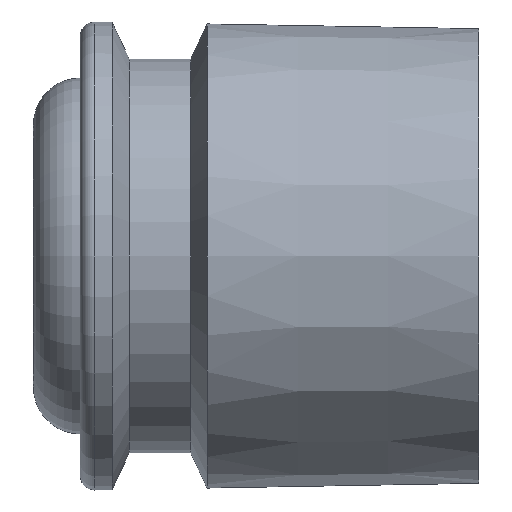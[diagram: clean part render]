
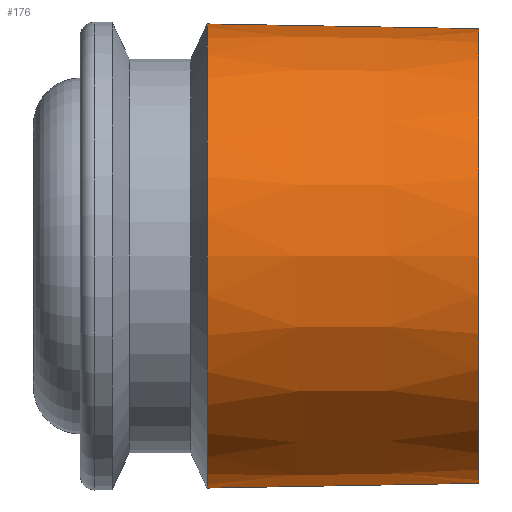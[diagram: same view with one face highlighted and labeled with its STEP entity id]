
A CAD part, left-side view. The second image highlights one B-rep face of the part: STEP entity #176.
In plain terms, the highlighted conical face has half-angle 1 degrees and reference radius 4.953 mm.
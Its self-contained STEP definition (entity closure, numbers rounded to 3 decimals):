
#5 = VECTOR ( 'NONE', #541, 1000. ) ;
#25 = AXIS2_PLACEMENT_3D ( 'NONE', #109, #236, #386 ) ;
#40 = AXIS2_PLACEMENT_3D ( 'NONE', #283, #559, #668 ) ;
#41 = CARTESIAN_POINT ( 'NONE',  ( 0., 0., 4.852 ) ) ;
#42 = ORIENTED_EDGE ( 'NONE', *, *, #153, .T. ) ;
#45 = LINE ( 'NONE', #371, #550 ) ;
#46 = VERTEX_POINT ( 'NONE', #61 ) ;
#54 = FACE_OUTER_BOUND ( 'NONE', #469, .T. ) ;
#57 = DIRECTION ( 'NONE',  ( 0., 1., 0. ) ) ;
#61 = CARTESIAN_POINT ( 'NONE',  ( 0., 0., -4.852 ) ) ;
#109 = CARTESIAN_POINT ( 'NONE',  ( 0., 5.796, 0. ) ) ;
#125 = CARTESIAN_POINT ( 'NONE',  ( 0., 5.796, -4.953 ) ) ;
#153 = EDGE_CURVE ( 'NONE', #643, #193, #627, .T. ) ;
#176 = ADVANCED_FACE ( 'NONE', ( #54 ), #254, .T. ) ;
#193 = VERTEX_POINT ( 'NONE', #125 ) ;
#236 = DIRECTION ( 'NONE',  ( 0., -1., 0. ) ) ;
#254 = CONICAL_SURFACE ( 'NONE', #330, 4.953, 0.017 ) ;
#267 = ORIENTED_EDGE ( 'NONE', *, *, #356, .F. ) ;
#283 = CARTESIAN_POINT ( 'NONE',  ( 0., 0., 0. ) ) ;
#325 = LINE ( 'NONE', #645, #5 ) ;
#330 = AXIS2_PLACEMENT_3D ( 'NONE', #554, #57, #490 ) ;
#347 = ORIENTED_EDGE ( 'NONE', *, *, #510, .F. ) ;
#356 = EDGE_CURVE ( 'NONE', #46, #193, #325, .T. ) ;
#371 = CARTESIAN_POINT ( 'NONE',  ( 0., 5.796, 4.953 ) ) ;
#376 = VERTEX_POINT ( 'NONE', #41 ) ;
#386 = DIRECTION ( 'NONE',  ( 0., 0., -1. ) ) ;
#407 = EDGE_CURVE ( 'NONE', #376, #643, #45, .T. ) ;
#469 = EDGE_LOOP ( 'NONE', ( #267, #347, #583, #42 ) ) ;
#490 = DIRECTION ( 'NONE',  ( 0., 0., 1. ) ) ;
#510 = EDGE_CURVE ( 'NONE', #376, #46, #700, .T. ) ;
#515 = CARTESIAN_POINT ( 'NONE',  ( 0., 5.796, 4.953 ) ) ;
#541 = DIRECTION ( 'NONE',  ( 0., 1., -0.017 ) ) ;
#550 = VECTOR ( 'NONE', #703, 1000. ) ;
#554 = CARTESIAN_POINT ( 'NONE',  ( 0., 5.796, 0. ) ) ;
#559 = DIRECTION ( 'NONE',  ( 0., -1., 0. ) ) ;
#583 = ORIENTED_EDGE ( 'NONE', *, *, #407, .T. ) ;
#627 = CIRCLE ( 'NONE', #25, 4.953 ) ;
#643 = VERTEX_POINT ( 'NONE', #515 ) ;
#645 = CARTESIAN_POINT ( 'NONE',  ( 0., 5.796, -4.953 ) ) ;
#668 = DIRECTION ( 'NONE',  ( 0., 0., -1. ) ) ;
#700 = CIRCLE ( 'NONE', #40, 4.852 ) ;
#703 = DIRECTION ( 'NONE',  ( 0., 1., 0.017 ) ) ;
